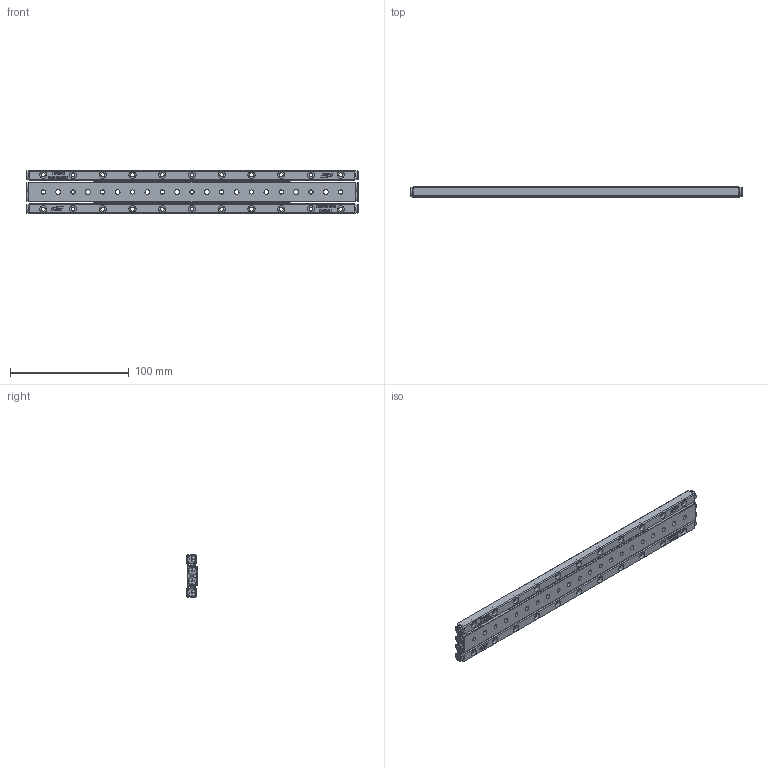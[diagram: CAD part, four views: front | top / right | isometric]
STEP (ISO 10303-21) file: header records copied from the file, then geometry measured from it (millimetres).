
FILE_DESCRIPTION (( 'STEP AP203' ), '1' );
FILE_NAME ('GBD03-275.STEP', '2023-11-21T07:32:13', ( '' ), ( '' ), 'SwSTEP 2.0', 'SolidWorks 2019', '' );
FILE_SCHEMA (( 'CONFIG_CONTROL_DESIGN' ));
Length unit declared in the file: millimetre
Products named in the file (4): GBD03-275; GBV03-275-模糊化保持器組; GBV03-275-模糊化軌道; GBD03-275-模糊化中軌
Assembly tree (5 placements, depth 2):
  GBD03-275
    GBD03-275-模糊化中軌
    GBV03-275-模糊化軌道  x2
    GBV03-275-模糊化保持器組  x2
Bounding box: 279 x 8.5 x 36 mm (x, y, z)
Volume: 66817.2 mm3; surface area: 43115.1 mm2
Topology: 5 solids, 5 shells, 1341 faces, 3600 edges, 2356 vertices
Faces by surface type: plane 831, bspline 204, sphere 132, cylinder 86, cone 72, torus 16
Full cylindrical faces by diameter (mm): 3.3 x22, 3.5 x11, 4 x10, 6 x33, 7.5 x8
Entity records: 33183 total; most frequent: CARTESIAN_POINT 12977, ORIENTED_EDGE 4126, DIRECTION 3566, EDGE_CURVE 2063, VERTEX_POINT 1377, LINE 1338, VECTOR 1338, EDGE_LOOP 1168
